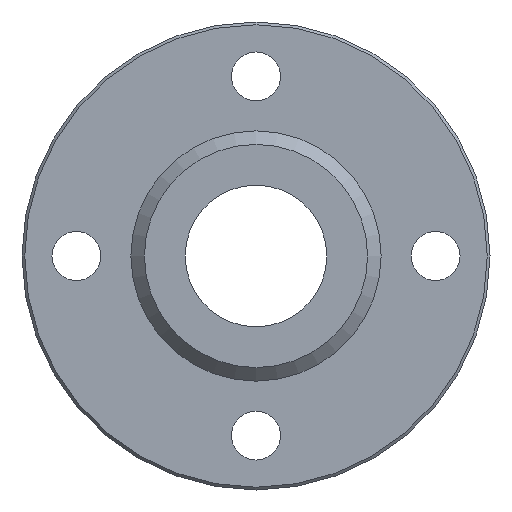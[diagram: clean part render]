
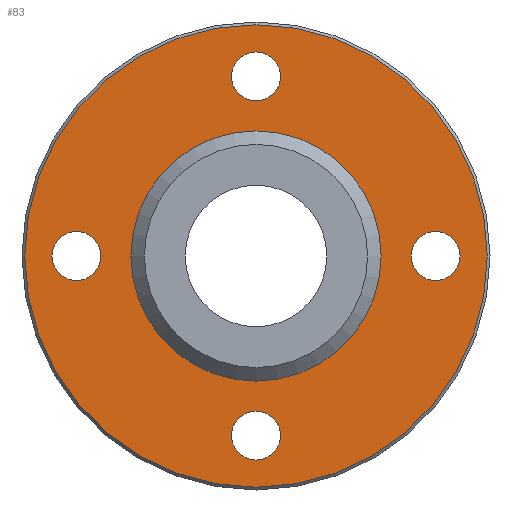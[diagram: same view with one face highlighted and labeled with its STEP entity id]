
A CAD part, left-side view. The second image highlights one B-rep face of the part: STEP entity #83.
In plain terms, the highlighted planar face has unit normal (-1, 0, 0).
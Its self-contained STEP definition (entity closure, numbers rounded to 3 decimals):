
#83=ADVANCED_FACE('',(#128,#129,#130,#131,#132,#133),#134,.F.);
#128=FACE_OUTER_BOUND('',#208,.T.);
#129=FACE_BOUND('',#209,.T.);
#130=FACE_BOUND('',#210,.T.);
#131=FACE_BOUND('',#211,.T.);
#132=FACE_BOUND('',#212,.T.);
#133=FACE_BOUND('',#213,.T.);
#134=PLANE('',#214);
#208=EDGE_LOOP('',(#304));
#209=EDGE_LOOP('',(#305));
#210=EDGE_LOOP('',(#306));
#211=EDGE_LOOP('',(#307));
#212=EDGE_LOOP('',(#308));
#213=EDGE_LOOP('',(#309));
#214=AXIS2_PLACEMENT_3D('',#310,#311,#312);
#304=ORIENTED_EDGE('',*,*,#401,.F.);
#305=ORIENTED_EDGE('',*,*,#402,.T.);
#306=ORIENTED_EDGE('',*,*,#403,.T.);
#307=ORIENTED_EDGE('',*,*,#404,.T.);
#308=ORIENTED_EDGE('',*,*,#405,.T.);
#309=ORIENTED_EDGE('',*,*,#400,.T.);
#310=CARTESIAN_POINT('',(-9.0,11.5,0.0));
#311=DIRECTION('',(1.0,0.0,0.0));
#312=DIRECTION('',(0.0,0.0,-1.0));
#400=EDGE_CURVE('',#440,#440,#441,.T.);
#401=EDGE_CURVE('',#442,#442,#443,.T.);
#402=EDGE_CURVE('',#444,#444,#445,.T.);
#403=EDGE_CURVE('',#446,#446,#447,.T.);
#404=EDGE_CURVE('',#448,#448,#449,.T.);
#405=EDGE_CURVE('',#450,#450,#451,.T.);
#440=VERTEX_POINT('',#496);
#441=CIRCLE('',#497,11.5);
#442=VERTEX_POINT('',#498);
#443=CIRCLE('',#499,21.246);
#444=VERTEX_POINT('',#500);
#445=CIRCLE('',#501,2.25);
#446=VERTEX_POINT('',#502);
#447=CIRCLE('',#503,2.25);
#448=VERTEX_POINT('',#504);
#449=CIRCLE('',#505,2.25);
#450=VERTEX_POINT('',#506);
#451=CIRCLE('',#507,2.25);
#496=CARTESIAN_POINT('',(-9.0,0.0,-11.5));
#497=AXIS2_PLACEMENT_3D('',#564,#565,#566);
#498=CARTESIAN_POINT('',(-9.0,0.0,-21.246));
#499=AXIS2_PLACEMENT_3D('',#567,#568,#569);
#500=CARTESIAN_POINT('',(-9.0,0.0,14.25));
#501=AXIS2_PLACEMENT_3D('',#570,#571,#572);
#502=CARTESIAN_POINT('',(-9.0,0.0,-18.75));
#503=AXIS2_PLACEMENT_3D('',#573,#574,#575);
#504=CARTESIAN_POINT('',(-9.0,16.5,-2.25));
#505=AXIS2_PLACEMENT_3D('',#576,#577,#578);
#506=CARTESIAN_POINT('',(-9.0,-16.5,-2.25));
#507=AXIS2_PLACEMENT_3D('',#579,#580,#581);
#564=CARTESIAN_POINT('',(-9.0,0.0,0.0));
#565=DIRECTION('',(1.0,0.0,0.0));
#566=DIRECTION('',(0.0,0.0,-1.0));
#567=CARTESIAN_POINT('',(-9.0,0.0,0.0));
#568=DIRECTION('',(1.0,0.0,0.0));
#569=DIRECTION('',(0.0,0.0,-1.0));
#570=CARTESIAN_POINT('',(-9.0,0.0,16.5));
#571=DIRECTION('',(1.0,0.0,0.0));
#572=DIRECTION('',(0.0,0.0,-1.0));
#573=CARTESIAN_POINT('',(-9.0,0.0,-16.5));
#574=DIRECTION('',(1.0,0.0,0.0));
#575=DIRECTION('',(0.0,0.0,-1.0));
#576=CARTESIAN_POINT('',(-9.0,16.5,0.0));
#577=DIRECTION('',(1.0,0.0,0.0));
#578=DIRECTION('',(0.0,0.0,-1.0));
#579=CARTESIAN_POINT('',(-9.0,-16.5,0.0));
#580=DIRECTION('',(1.0,0.0,0.0));
#581=DIRECTION('',(0.0,0.0,-1.0));
